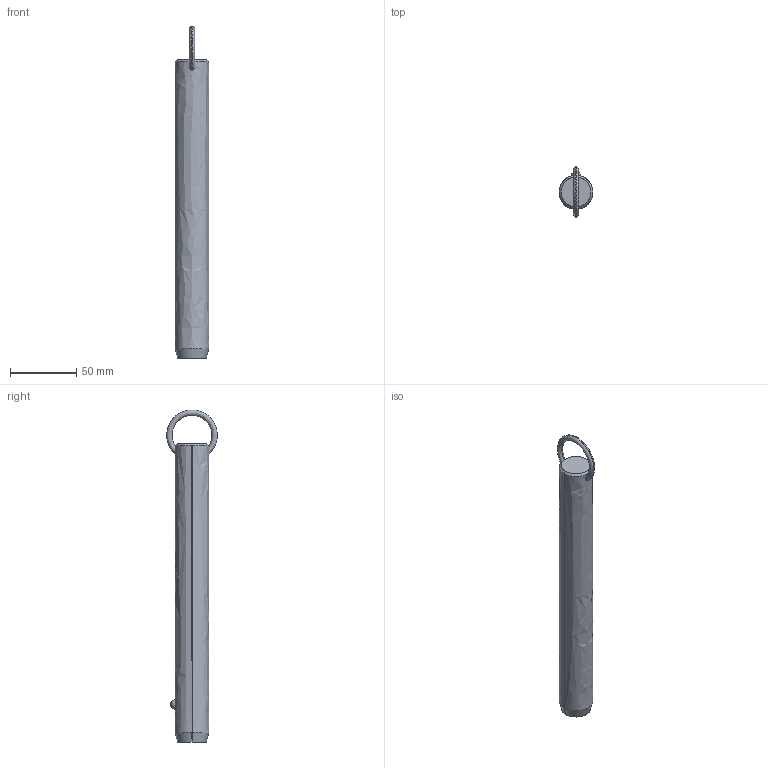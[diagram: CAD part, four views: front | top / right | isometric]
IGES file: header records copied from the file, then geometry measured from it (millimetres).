
Start section: SolidWorks IGES file using analytic representation for surfaces
Global section: file name: C:\Users\liam_\OneDrive\Documents\WORK\Work for WixRoyd\Job Files\J-00019 - Matt Davis CAD Checking\04. CAD Drawings\automotion20190605\P1250.2_v2\P1250.2_v2_20190729_IGES\P1250.100-710.igs; native system: SolidWorks 2017; preprocessor: SolidWorks 2017; author: liam_; date: 190730.174851; units: millimetre
Bounding box: 25.4 x 38.1 x 250.1 mm (x, y, z)
Surface area: 19703.6 mm2 (no closed solid volume)
Topology: 0 solids, 0 shells, 12 faces, 298 edges, 296 vertices
Faces by surface type: revolution 8, bspline 4
